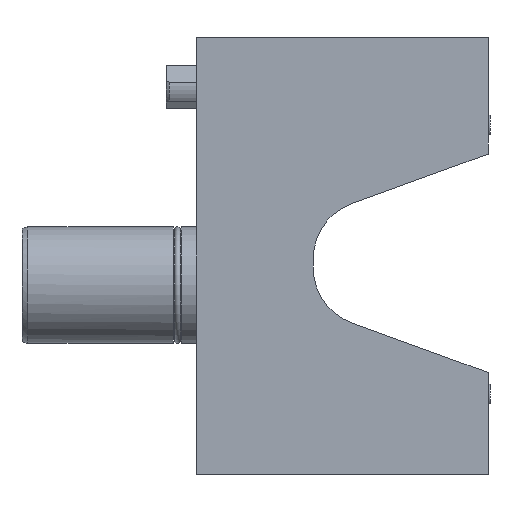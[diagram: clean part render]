
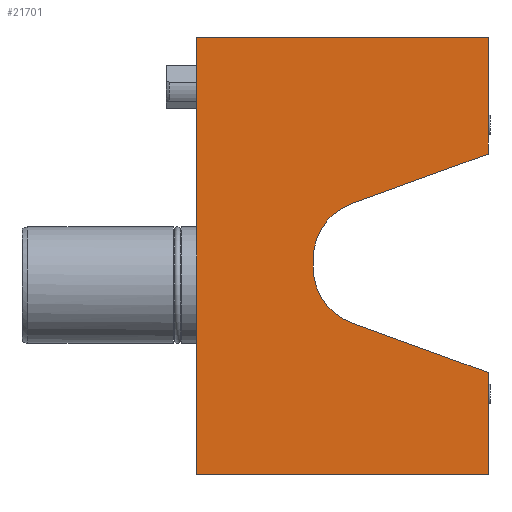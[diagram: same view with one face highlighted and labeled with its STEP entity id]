
A CAD part, front view. The second image highlights one B-rep face of the part: STEP entity #21701.
In plain terms, the highlighted planar face has unit normal (0, -1, 0).
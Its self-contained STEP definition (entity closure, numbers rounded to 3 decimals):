
#9958=CIRCLE('',#20955,20.);
#9959=CIRCLE('',#20956,20.);
#10250=ORIENTED_EDGE('',*,*,#13511,.T.);
#10251=ORIENTED_EDGE('',*,*,#13506,.F.);
#10252=ORIENTED_EDGE('',*,*,#13477,.T.);
#10253=ORIENTED_EDGE('',*,*,#13512,.T.);
#10254=ORIENTED_EDGE('',*,*,#13355,.T.);
#10255=ORIENTED_EDGE('',*,*,#13513,.F.);
#10256=ORIENTED_EDGE('',*,*,#13514,.F.);
#10257=ORIENTED_EDGE('',*,*,#13515,.F.);
#10258=ORIENTED_EDGE('',*,*,#13516,.F.);
#10259=ORIENTED_EDGE('',*,*,#13517,.F.);
#11764=VECTOR('',#15125,1.);
#11848=VECTOR('',#15221,1.);
#11872=VECTOR('',#15267,1.);
#11876=VECTOR('',#15275,1.);
#11877=VECTOR('',#15276,1.);
#11878=VECTOR('',#15277,1.);
#11879=VECTOR('',#15280,1.);
#11880=VECTOR('',#15283,1.);
#12268=LINE('',#16628,#11764);
#12352=LINE('',#17093,#11848);
#12376=LINE('',#17151,#11872);
#12380=LINE('',#17161,#11876);
#12381=LINE('',#17162,#11877);
#12382=LINE('',#17164,#11878);
#12383=LINE('',#17168,#11879);
#12384=LINE('',#17171,#11880);
#12768=VERTEX_POINT('',#16625);
#12769=VERTEX_POINT('',#16627);
#12887=VERTEX_POINT('',#17090);
#12888=VERTEX_POINT('',#17092);
#12911=VERTEX_POINT('',#17150);
#12915=VERTEX_POINT('',#17160);
#12916=VERTEX_POINT('',#17163);
#12917=VERTEX_POINT('',#17165);
#12918=VERTEX_POINT('',#17167);
#12919=VERTEX_POINT('',#17169);
#13355=EDGE_CURVE('',#12769,#12768,#12268,.T.);
#13477=EDGE_CURVE('',#12888,#12887,#12352,.T.);
#13506=EDGE_CURVE('',#12888,#12911,#12376,.T.);
#13511=EDGE_CURVE('',#12915,#12911,#12380,.T.);
#13512=EDGE_CURVE('',#12887,#12769,#12381,.T.);
#13513=EDGE_CURVE('',#12916,#12768,#12382,.T.);
#13514=EDGE_CURVE('',#12917,#12916,#9958,.T.);
#13515=EDGE_CURVE('',#12918,#12917,#12383,.T.);
#13516=EDGE_CURVE('',#12919,#12918,#9959,.T.);
#13517=EDGE_CURVE('',#12915,#12919,#12384,.T.);
#14217=EDGE_LOOP('',(#10250,#10251,#10252,#10253,#10254,#10255,#10256,#10257,
#10258,#10259));
#14668=FACE_BOUND('',#14217,.T.);
#15125=DIRECTION('',(0.,0.,35.));
#15221=DIRECTION('',(0.,0.,-150.));
#15267=DIRECTION('',(100.,0.,0.));
#15273=DIRECTION('',(0.,-1.,0.));
#15274=DIRECTION('',(-1.,0.,0.));
#15275=DIRECTION('',(0.,0.,40.));
#15276=DIRECTION('',(100.,0.,0.));
#15277=DIRECTION('',(46.84,0.,-17.049));
#15278=DIRECTION('',(0.,-1.,0.));
#15279=DIRECTION('',(-20.,0.,0.));
#15280=DIRECTION('',(0.,0.,-3.315));
#15281=DIRECTION('',(0.,-1.,0.));
#15282=DIRECTION('',(-20.,0.,0.));
#15283=DIRECTION('',(-46.84,0.,-17.049));
#16625=CARTESIAN_POINT('',(100.,-37.5,-30.));
#16627=CARTESIAN_POINT('',(100.,-37.5,-65.));
#16628=CARTESIAN_POINT('',(100.,-37.5,-65.));
#17090=CARTESIAN_POINT('',(0.,-37.5,-65.));
#17092=CARTESIAN_POINT('',(0.,-37.5,85.));
#17093=CARTESIAN_POINT('',(0.,-37.5,85.));
#17150=CARTESIAN_POINT('',(100.,-37.5,85.));
#17151=CARTESIAN_POINT('',(0.,-37.5,85.));
#17159=CARTESIAN_POINT('',(0.,-37.5,85.));
#17160=CARTESIAN_POINT('',(100.,-37.5,45.));
#17161=CARTESIAN_POINT('',(100.,-37.5,45.));
#17162=CARTESIAN_POINT('',(0.,-37.5,-65.));
#17163=CARTESIAN_POINT('',(53.16,-37.5,-12.951));
#17164=CARTESIAN_POINT('',(53.16,-37.5,-12.951));
#17165=CARTESIAN_POINT('',(40.,-37.5,5.842));
#17166=CARTESIAN_POINT('',(60.,-37.5,5.842));
#17167=CARTESIAN_POINT('',(40.,-37.5,9.158));
#17168=CARTESIAN_POINT('',(40.,-37.5,9.158));
#17169=CARTESIAN_POINT('',(53.16,-37.5,27.951));
#17170=CARTESIAN_POINT('',(60.,-37.5,9.158));
#17171=CARTESIAN_POINT('',(100.,-37.5,45.));
#20954=AXIS2_PLACEMENT_3D('',#17159,#15273,#15274);
#20955=AXIS2_PLACEMENT_3D('',#17166,#15278,#15279);
#20956=AXIS2_PLACEMENT_3D('',#17170,#15281,#15282);
#21435=PLANE('',#20954);
#21701=ADVANCED_FACE('',(#14668),#21435,.T.);
